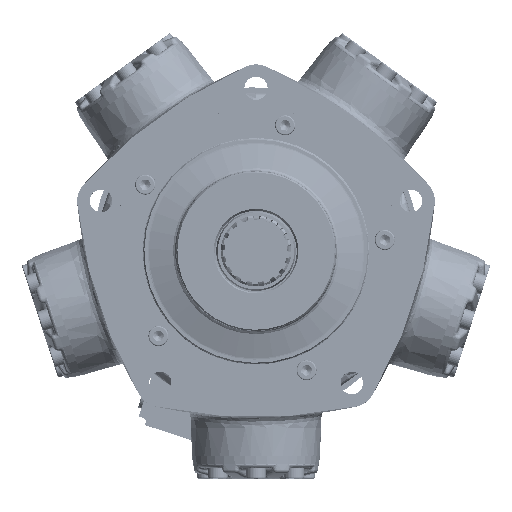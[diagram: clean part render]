
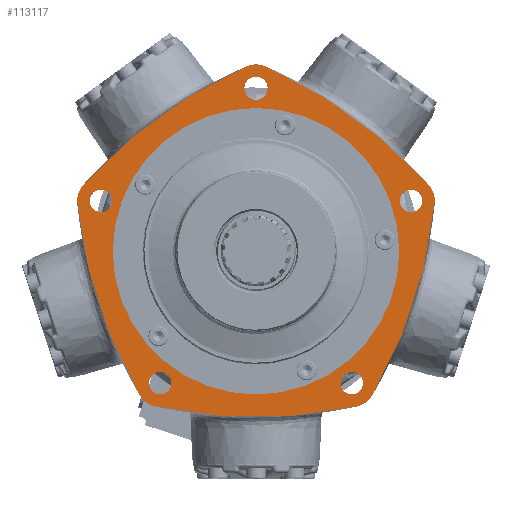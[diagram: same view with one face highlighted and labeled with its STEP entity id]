
A CAD part, top view. The second image highlights one B-rep face of the part: STEP entity #113117.
In plain terms, the highlighted planar face has unit normal (0, 0, 1).
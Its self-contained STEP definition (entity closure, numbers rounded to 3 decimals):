
#111796=CARTESIAN_POINT('',(-9.25,130.048,34.849));
#111797=VERTEX_POINT('',#111796);
#111798=CARTESIAN_POINT('',(0.,130.048,34.849));
#111799=DIRECTION('',(0.0,0.0,-1.0));
#111800=DIRECTION('',(1.0,0.0,0.0));
#111801=AXIS2_PLACEMENT_3D('',#111798,#111799,#111800);
#111802=CIRCLE('',#111801,9.25);
#111803=EDGE_CURVE('',#111797,#111797,#111802,.T.);
#111824=CARTESIAN_POINT('',(120.902,48.747,34.849));
#111825=VERTEX_POINT('',#111824);
#111826=CARTESIAN_POINT('',(123.683,40.187,34.849));
#111827=DIRECTION('',(0.,0.,-1.));
#111828=DIRECTION('',(0.309,-0.951,0.));
#111829=AXIS2_PLACEMENT_3D('',#111826,#111827,#111828);
#111830=CIRCLE('',#111829,9.);
#111831=EDGE_CURVE('',#111825,#111825,#111830,.T.);
#111852=CARTESIAN_POINT('',(83.721,-99.921,34.849));
#111853=VERTEX_POINT('',#111852);
#111854=CARTESIAN_POINT('',(76.44,-105.211,34.849));
#111855=DIRECTION('',(0.,0.,-1.0));
#111856=DIRECTION('',(-0.809,-0.588,0.));
#111857=AXIS2_PLACEMENT_3D('',#111854,#111855,#111856);
#111858=CIRCLE('',#111857,9.);
#111859=EDGE_CURVE('',#111853,#111853,#111858,.T.);
#111880=CARTESIAN_POINT('',(-69.159,-110.501,34.849));
#111881=VERTEX_POINT('',#111880);
#111882=CARTESIAN_POINT('',(-76.44,-105.211,34.849));
#111883=DIRECTION('',(0.,0.,-1.0));
#111884=DIRECTION('',(-0.809,0.588,0.));
#111885=AXIS2_PLACEMENT_3D('',#111882,#111883,#111884);
#111886=CIRCLE('',#111885,9.);
#111887=EDGE_CURVE('',#111881,#111881,#111886,.T.);
#111908=CARTESIAN_POINT('',(-126.464,31.628,34.849));
#111909=VERTEX_POINT('',#111908);
#111910=CARTESIAN_POINT('',(-123.683,40.187,34.849));
#111911=DIRECTION('',(0.,0.,-1.0));
#111912=DIRECTION('',(0.309,0.951,0.));
#111913=AXIS2_PLACEMENT_3D('',#111910,#111911,#111912);
#111914=CIRCLE('',#111913,9.);
#111915=EDGE_CURVE('',#111909,#111909,#111914,.T.);
#112994=CARTESIAN_POINT('',(0.0,152.897,34.849));
#112995=DIRECTION('',(0.0,0.0,-1.0));
#112996=DIRECTION('',(-1.0,0.0,0.0));
#112997=AXIS2_PLACEMENT_3D('',#112994,#112995,#112996);
#112998=PLANE('',#112997);
#112999=CARTESIAN_POINT('',(-137.883,52.886,34.849));
#113000=VERTEX_POINT('',#112999);
#113001=CARTESIAN_POINT('',(-7.69,147.477,34.849));
#113002=VERTEX_POINT('',#113001);
#113003=CARTESIAN_POINT('',(146.109,-201.102,34.849));
#113004=DIRECTION('',(0.0,0.0,-1.));
#113005=DIRECTION('',(0.404,-0.915,0.0));
#113006=AXIS2_PLACEMENT_3D('',#113003,#113004,#113005);
#113007=CIRCLE('',#113006,381.);
#113008=EDGE_CURVE('',#113000,#113002,#113007,.T.);
#113009=ORIENTED_EDGE('',*,*,#113008,.F.);
#113010=CARTESIAN_POINT('',(-142.635,38.259,34.849));
#113011=VERTEX_POINT('',#113010);
#113012=CARTESIAN_POINT('',(-123.683,40.187,34.849));
#113013=DIRECTION('',(0.0,0.0,-1.));
#113014=DIRECTION('',(0.745,-0.667,0.0));
#113015=AXIS2_PLACEMENT_3D('',#113012,#113013,#113014);
#113016=CIRCLE('',#113015,19.05);
#113017=EDGE_CURVE('',#113011,#113000,#113016,.T.);
#113018=ORIENTED_EDGE('',*,*,#113017,.F.);
#113019=CARTESIAN_POINT('',(-92.906,-114.791,34.849));
#113020=VERTEX_POINT('',#113019);
#113021=CARTESIAN_POINT('',(236.409,76.814,34.849));
#113022=DIRECTION('',(0.0,0.0,-1.));
#113023=DIRECTION('',(0.995,0.101,0.0));
#113024=AXIS2_PLACEMENT_3D('',#113021,#113022,#113023);
#113025=CIRCLE('',#113024,381.0);
#113026=EDGE_CURVE('',#113020,#113011,#113025,.T.);
#113027=ORIENTED_EDGE('',*,*,#113026,.F.);
#113028=CARTESIAN_POINT('',(-80.463,-123.831,34.849));
#113029=VERTEX_POINT('',#113028);
#113030=CARTESIAN_POINT('',(-76.44,-105.211,34.849));
#113031=DIRECTION('',(0.0,0.0,-1.0));
#113032=DIRECTION('',(0.864,0.503,0.0));
#113033=AXIS2_PLACEMENT_3D('',#113030,#113031,#113032);
#113034=CIRCLE('',#113033,19.05);
#113035=EDGE_CURVE('',#113029,#113020,#113034,.T.);
#113036=ORIENTED_EDGE('',*,*,#113035,.F.);
#113037=CARTESIAN_POINT('',(80.463,-123.831,34.849));
#113038=VERTEX_POINT('',#113037);
#113039=CARTESIAN_POINT('',(0.,248.575,34.849));
#113040=DIRECTION('',(0.0,0.0,-1.));
#113041=DIRECTION('',(0.211,0.977,0.0));
#113042=AXIS2_PLACEMENT_3D('',#113039,#113040,#113041);
#113043=CIRCLE('',#113042,381.);
#113044=EDGE_CURVE('',#113038,#113029,#113043,.T.);
#113045=ORIENTED_EDGE('',*,*,#113044,.F.);
#113046=CARTESIAN_POINT('',(92.906,-114.791,34.849));
#113047=VERTEX_POINT('',#113046);
#113048=CARTESIAN_POINT('',(76.44,-105.211,34.849));
#113049=DIRECTION('',(0.0,0.0,-1.));
#113050=DIRECTION('',(-0.211,0.977,0.0));
#113051=AXIS2_PLACEMENT_3D('',#113048,#113049,#113050);
#113052=CIRCLE('',#113051,19.05);
#113053=EDGE_CURVE('',#113047,#113038,#113052,.T.);
#113054=ORIENTED_EDGE('',*,*,#113053,.F.);
#113055=CARTESIAN_POINT('',(142.635,38.259,34.849));
#113056=VERTEX_POINT('',#113055);
#113057=CARTESIAN_POINT('',(-236.409,76.814,34.849));
#113058=DIRECTION('',(0.0,0.0,-1.));
#113059=DIRECTION('',(-0.864,0.503,0.0));
#113060=AXIS2_PLACEMENT_3D('',#113057,#113058,#113059);
#113061=CIRCLE('',#113060,381.0);
#113062=EDGE_CURVE('',#113056,#113047,#113061,.T.);
#113063=ORIENTED_EDGE('',*,*,#113062,.F.);
#113064=CARTESIAN_POINT('',(137.883,52.886,34.849));
#113065=VERTEX_POINT('',#113064);
#113066=CARTESIAN_POINT('',(123.683,40.187,34.849));
#113067=DIRECTION('',(0.0,0.0,-1.0));
#113068=DIRECTION('',(-0.995,0.101,0.0));
#113069=AXIS2_PLACEMENT_3D('',#113066,#113067,#113068);
#113070=CIRCLE('',#113069,19.05);
#113071=EDGE_CURVE('',#113065,#113056,#113070,.T.);
#113072=ORIENTED_EDGE('',*,*,#113071,.F.);
#113073=CARTESIAN_POINT('',(7.69,147.477,34.849));
#113074=VERTEX_POINT('',#113073);
#113075=CARTESIAN_POINT('',(-146.109,-201.102,34.849));
#113076=DIRECTION('',(0.0,0.0,-1.));
#113077=DIRECTION('',(-0.745,-0.667,0.0));
#113078=AXIS2_PLACEMENT_3D('',#113075,#113076,#113077);
#113079=CIRCLE('',#113078,381.0);
#113080=EDGE_CURVE('',#113074,#113065,#113079,.T.);
#113081=ORIENTED_EDGE('',*,*,#113080,.F.);
#113082=CARTESIAN_POINT('',(0.,130.048,34.849));
#113083=DIRECTION('',(0.0,0.0,-1.0));
#113084=DIRECTION('',(-0.404,-0.915,0.0));
#113085=AXIS2_PLACEMENT_3D('',#113082,#113083,#113084);
#113086=CIRCLE('',#113085,19.05);
#113087=EDGE_CURVE('',#113002,#113074,#113086,.T.);
#113088=ORIENTED_EDGE('',*,*,#113087,.F.);
#113089=EDGE_LOOP('',(#113009,#113018,#113027,#113036,#113045,#113054,#113063,#113072,#113081,#113088));
#113090=FACE_OUTER_BOUND('',#113089,.T.);
#113091=ORIENTED_EDGE('',*,*,#111803,.T.);
#113092=EDGE_LOOP('',(#113091));
#113093=FACE_BOUND('',#113092,.T.);
#113094=ORIENTED_EDGE('',*,*,#111831,.T.);
#113095=EDGE_LOOP('',(#113094));
#113096=FACE_BOUND('',#113095,.T.);
#113097=ORIENTED_EDGE('',*,*,#111859,.T.);
#113098=EDGE_LOOP('',(#113097));
#113099=FACE_BOUND('',#113098,.T.);
#113100=ORIENTED_EDGE('',*,*,#111887,.T.);
#113101=EDGE_LOOP('',(#113100));
#113102=FACE_BOUND('',#113101,.T.);
#113103=ORIENTED_EDGE('',*,*,#111915,.T.);
#113104=EDGE_LOOP('',(#113103));
#113105=FACE_BOUND('',#113104,.T.);
#113106=CARTESIAN_POINT('',(114.319,0.,34.849));
#113107=VERTEX_POINT('',#113106);
#113108=CARTESIAN_POINT('',(0.0,0.,34.849));
#113109=DIRECTION('',(0.0,0.0,-1.0));
#113110=DIRECTION('',(-1.0,0.0,0.0));
#113111=AXIS2_PLACEMENT_3D('',#113108,#113109,#113110);
#113112=CIRCLE('',#113111,114.319);
#113113=EDGE_CURVE('',#113107,#113107,#113112,.T.);
#113114=ORIENTED_EDGE('',*,*,#113113,.T.);
#113115=EDGE_LOOP('',(#113114));
#113116=FACE_BOUND('',#113115,.T.);
#113117=ADVANCED_FACE('',(#113090,#113093,#113096,#113099,#113102,#113105,#113116),#112998,.F.);
